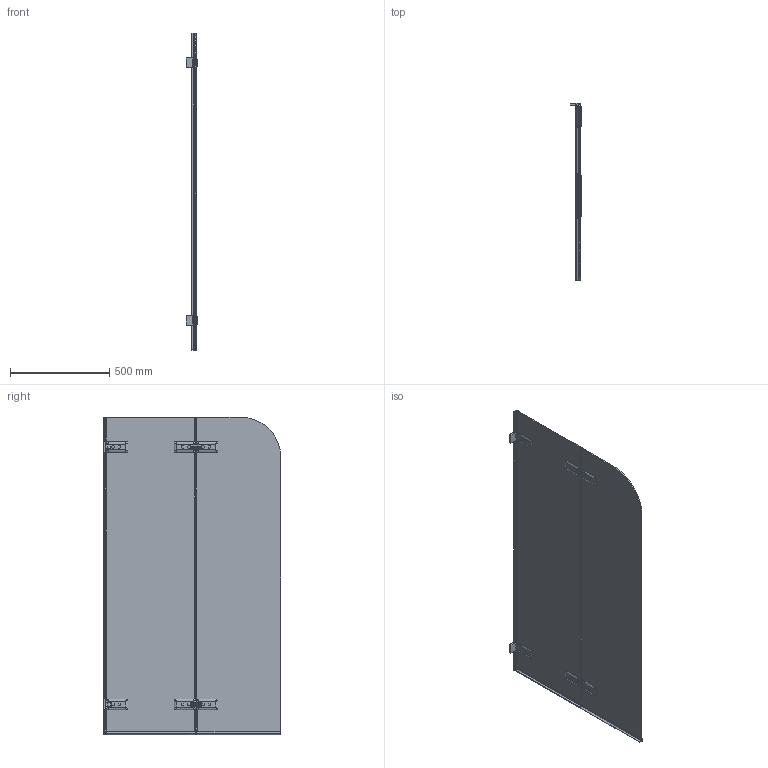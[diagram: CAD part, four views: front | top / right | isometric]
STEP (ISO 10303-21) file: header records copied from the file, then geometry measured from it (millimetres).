
FILE_DESCRIPTION(/* description */ (''),/* implementation_level */ '2;1');
FILE_NAME(/* name */ 'E:\Работа\Сергей\Душевые кабинки\! Работа\TREND PEARL GV-862B\TREND PEARL GV-862B правая модель\TREND PEARL GV-862B ПРАВАЯ-3D.stp',/* time_stamp */ '2018-03-09T13:34:33+03:00',/* author */ ('PC'),/* organization */ (''),/* preprocessor_version */ 'ST-DEVELOPER v15.2',/* originating_system */ 'Autodesk Inventor 2014',/* authorisation */ '');
FILE_SCHEMA (('AUTOMOTIVE_DESIGN { 1 0 10303 214 3 1 1 }'));
Products named in the file (1): TREND PEARL GV-862B ПРАВАЯ-3
D
Bounding box: 59.5 x 895.7 x 1603.39 mm (x, y, z)
Volume: 9226099.8 mm3; surface area: 3147646.3 mm2
Topology: 1 solids, 3 shells, 1253 faces, 3512 edges, 2237 vertices
Faces by surface type: plane 735, cylinder 356, bspline 118, cone 20, torus 12, sphere 12
Full cylindrical faces by diameter (mm): 6 x4, 9 x8, 12 x2, 13 x4
Entity records: 56327 total; most frequent: CARTESIAN_POINT 23211, ORIENTED_EDGE 6836, DIRECTION 6419, EDGE_CURVE 3418, VERTEX_POINT 2225, LINE 2161, VECTOR 2161, AXIS2_PLACEMENT_3D 2129
